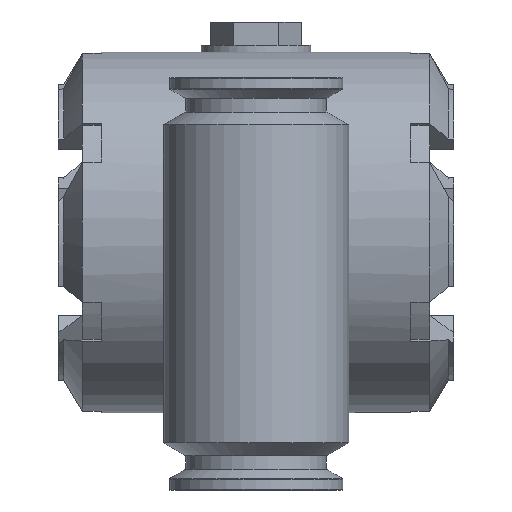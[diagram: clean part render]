
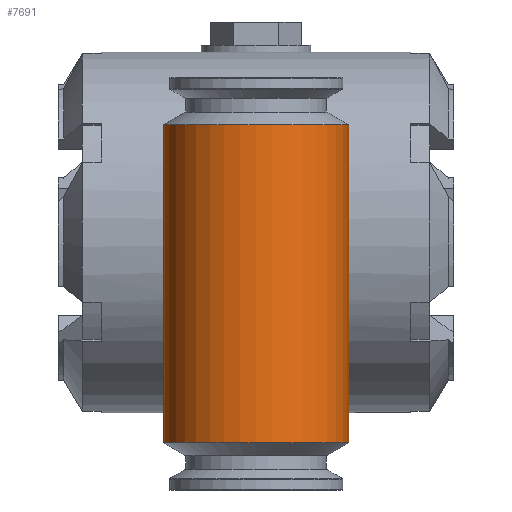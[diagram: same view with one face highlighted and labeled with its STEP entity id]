
A CAD part, front view. The second image highlights one B-rep face of the part: STEP entity #7691.
In plain terms, the highlighted cylindrical face has radius 27 mm (diameter 54 mm), a full revolution.
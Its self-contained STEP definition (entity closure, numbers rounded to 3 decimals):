
#767=CIRCLE('',#27631,27.);
#768=CIRCLE('',#27632,27.);
#3151=LINE('',#45406,#5968);
#3152=LINE('',#45411,#5969);
#5968=VECTOR('',#32584,1.);
#5969=VECTOR('',#32587,1.);
#6103=CYLINDRICAL_SURFACE('',#27633,27.);
#6327=FACE_BOUND('',#11255,.T.);
#6328=FACE_BOUND('',#11256,.T.);
#6329=FACE_BOUND('',#11257,.T.);
#7691=ADVANCED_FACE('',(#6327,#6328,#6329),#6103,.T.);
#11255=EDGE_LOOP('',(#18479));
#11256=EDGE_LOOP('',(#18480));
#11257=EDGE_LOOP('',(#18481,#18482,#18483,#18484,#18485,#18486));
#18479=ORIENTED_EDGE('',*,*,#24872,.T.);
#18480=ORIENTED_EDGE('',*,*,#24873,.T.);
#18481=ORIENTED_EDGE('',*,*,#24870,.T.);
#18482=ORIENTED_EDGE('',*,*,#24874,.T.);
#18483=ORIENTED_EDGE('',*,*,#24875,.T.);
#18484=ORIENTED_EDGE('',*,*,#24868,.T.);
#18485=ORIENTED_EDGE('',*,*,#24876,.T.);
#18486=ORIENTED_EDGE('',*,*,#24877,.T.);
#21203=VERTEX_POINT('',#45407);
#21204=VERTEX_POINT('',#45408);
#21205=VERTEX_POINT('',#45410);
#21206=VERTEX_POINT('',#45412);
#21207=VERTEX_POINT('',#45416);
#21208=VERTEX_POINT('',#45418);
#21209=VERTEX_POINT('',#45425);
#21210=VERTEX_POINT('',#45438);
#24868=EDGE_CURVE('',#21203,#21204,#3151,.T.);
#24870=EDGE_CURVE('',#21206,#21205,#3152,.T.);
#24872=EDGE_CURVE('',#21207,#21207,#767,.T.);
#24873=EDGE_CURVE('',#21208,#21208,#768,.T.);
#24874=EDGE_CURVE('',#21205,#21209,#26625,.T.);
#24875=EDGE_CURVE('',#21209,#21203,#26626,.T.);
#24876=EDGE_CURVE('',#21204,#21210,#26627,.T.);
#24877=EDGE_CURVE('',#21210,#21206,#26628,.T.);
#26625=B_SPLINE_CURVE_WITH_KNOTS('',3,(#45419,#45420,#45421,#45422,#45423,
#45424),.UNSPECIFIED.,.F.,.F.,(4,2,4),(0.,0.5,1.),.UNSPECIFIED.);
#26626=B_SPLINE_CURVE_WITH_KNOTS('',3,(#45426,#45427,#45428,#45429,#45430,
#45431),.UNSPECIFIED.,.F.,.F.,(4,2,4),(0.,0.5,1.),.UNSPECIFIED.);
#26627=B_SPLINE_CURVE_WITH_KNOTS('',3,(#45432,#45433,#45434,#45435,#45436,
#45437),.UNSPECIFIED.,.F.,.F.,(4,2,4),(0.,0.5,1.),.UNSPECIFIED.);
#26628=B_SPLINE_CURVE_WITH_KNOTS('',3,(#45439,#45440,#45441,#45442,#45443,
#45444),.UNSPECIFIED.,.F.,.F.,(4,2,4),(0.,0.5,1.),.UNSPECIFIED.);
#27631=AXIS2_PLACEMENT_3D('',#45415,#32592,#32593);
#27632=AXIS2_PLACEMENT_3D('',#45417,#32594,#32595);
#27633=AXIS2_PLACEMENT_3D('',#45445,#32596,#32597);
#32584=DIRECTION('',(0.,0.,1.));
#32587=DIRECTION('',(0.,0.,-1.));
#32592=DIRECTION('',(0.,0.,1.));
#32593=DIRECTION('',(-1.,0.,0.));
#32594=DIRECTION('',(0.,0.,-1.));
#32595=DIRECTION('',(1.,0.,0.));
#32596=DIRECTION('',(0.,0.,-1.));
#32597=DIRECTION('',(1.,0.,0.));
#45406=CARTESIAN_POINT('',(10.214,7.,107.));
#45407=CARTESIAN_POINT('',(10.214,7.,-7.206));
#45408=CARTESIAN_POINT('',(10.214,7.,7.206));
#45410=CARTESIAN_POINT('',(-10.182,7.,-7.25));
#45411=CARTESIAN_POINT('',(-10.182,7.,107.));
#45412=CARTESIAN_POINT('',(-10.182,7.,7.25));
#45415=CARTESIAN_POINT('',(0.016,-18.,-61.247));
#45416=CARTESIAN_POINT('',(-26.984,-18.,-61.247));
#45417=CARTESIAN_POINT('',(0.016,-18.,31.247));
#45418=CARTESIAN_POINT('',(27.016,-18.,31.247));
#45419=CARTESIAN_POINT('',(-10.182,7.,-7.25));
#45420=CARTESIAN_POINT('',(-9.235,7.386,-9.247));
#45421=CARTESIAN_POINT('',(-7.891,7.878,-11.013));
#45422=CARTESIAN_POINT('',(-4.416,8.693,-13.658));
#45423=CARTESIAN_POINT('',(-2.24,9.,-14.502));
#45424=CARTESIAN_POINT('',(0.016,9.,-14.5));
#45425=CARTESIAN_POINT('',(0.016,9.,-14.5));
#45426=CARTESIAN_POINT('',(0.016,9.,-14.5));
#45427=CARTESIAN_POINT('',(2.273,9.,-14.498));
#45428=CARTESIAN_POINT('',(4.433,8.697,-13.659));
#45429=CARTESIAN_POINT('',(7.934,7.875,-10.984));
#45430=CARTESIAN_POINT('',(9.271,7.385,-9.209));
#45431=CARTESIAN_POINT('',(10.214,7.,-7.206));
#45432=CARTESIAN_POINT('',(10.214,7.,7.206));
#45433=CARTESIAN_POINT('',(9.271,7.385,9.21));
#45434=CARTESIAN_POINT('',(7.929,7.876,10.985));
#45435=CARTESIAN_POINT('',(4.455,8.692,13.645));
#45436=CARTESIAN_POINT('',(2.276,9.,14.498));
#45437=CARTESIAN_POINT('',(0.016,9.,14.5));
#45438=CARTESIAN_POINT('',(0.016,9.,14.5));
#45439=CARTESIAN_POINT('',(0.016,9.,14.5));
#45440=CARTESIAN_POINT('',(-2.237,9.,14.502));
#45441=CARTESIAN_POINT('',(-4.395,8.698,13.672));
#45442=CARTESIAN_POINT('',(-7.896,7.877,11.012));
#45443=CARTESIAN_POINT('',(-9.236,7.386,9.246));
#45444=CARTESIAN_POINT('',(-10.182,7.,7.25));
#45445=CARTESIAN_POINT('',(0.016,-18.,107.));
